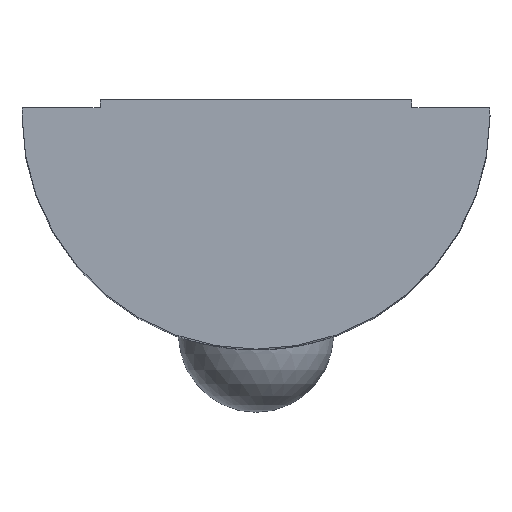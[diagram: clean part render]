
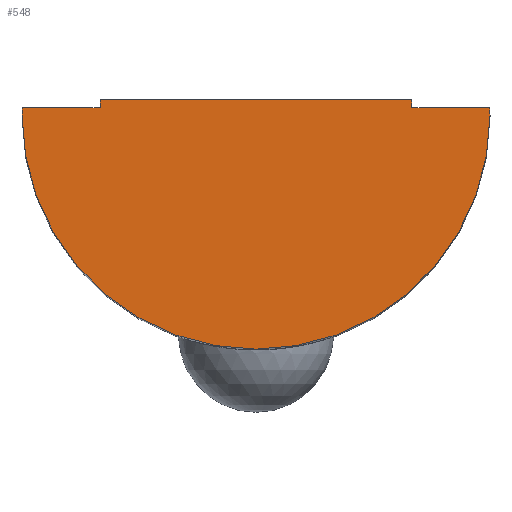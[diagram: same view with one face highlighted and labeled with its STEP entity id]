
A CAD part, top view. The second image highlights one B-rep face of the part: STEP entity #548.
In plain terms, the highlighted planar face has unit normal (0, 0, 1).
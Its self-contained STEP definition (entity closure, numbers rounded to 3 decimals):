
#6 = EDGE_CURVE ( 'NONE', #401, #391, #367, .T. ) ;
#20 = PLANE ( 'NONE',  #587 ) ;
#28 = LINE ( 'NONE', #62, #680 ) ;
#40 = ORIENTED_EDGE ( 'NONE', *, *, #145, .T. ) ;
#54 = CARTESIAN_POINT ( 'NONE',  ( -9.25, 3.25, 23. ) ) ;
#62 = CARTESIAN_POINT ( 'NONE',  ( -21.754, 3.495, 23. ) ) ;
#65 = CARTESIAN_POINT ( 'NONE',  ( -16.754, 3.25, 23. ) ) ;
#74 = LINE ( 'NONE', #309, #624 ) ;
#78 = EDGE_CURVE ( 'NONE', #226, #401, #353, .T. ) ;
#86 = EDGE_CURVE ( 'NONE', #391, #453, #639, .T. ) ;
#101 = CARTESIAN_POINT ( 'NONE',  ( -16.754, 3.745, 23. ) ) ;
#102 = ORIENTED_EDGE ( 'NONE', *, *, #158, .T. ) ;
#103 = CARTESIAN_POINT ( 'NONE',  ( -11.754, 3.495, 23. ) ) ;
#120 = AXIS2_PLACEMENT_3D ( 'NONE', #478, #159, #533 ) ;
#133 = ORIENTED_EDGE ( 'NONE', *, *, #398, .T. ) ;
#138 = AXIS2_PLACEMENT_3D ( 'NONE', #491, #178, #435 ) ;
#145 = EDGE_CURVE ( 'NONE', #252, #535, #28, .T. ) ;
#158 = EDGE_CURVE ( 'NONE', #453, #541, #74, .T. ) ;
#159 = DIRECTION ( 'NONE',  ( 0., 0., 1. ) ) ;
#177 = DIRECTION ( 'NONE',  ( 1., 0., 0. ) ) ;
#178 = DIRECTION ( 'NONE',  ( 0., 0., 1. ) ) ;
#208 = VECTOR ( 'NONE', #495, 1000. ) ;
#226 = VERTEX_POINT ( 'NONE', #298 ) ;
#252 = VERTEX_POINT ( 'NONE', #614 ) ;
#278 = VECTOR ( 'NONE', #496, 1000. ) ;
#281 = CARTESIAN_POINT ( 'NONE',  ( -16.754, 3.25, 23. ) ) ;
#298 = CARTESIAN_POINT ( 'NONE',  ( -24.258, 3.25, 23. ) ) ;
#309 = CARTESIAN_POINT ( 'NONE',  ( -11.754, 3.745, 23. ) ) ;
#318 = CARTESIAN_POINT ( 'NONE',  ( -9.254, 3.495, 23. ) ) ;
#326 = CARTESIAN_POINT ( 'NONE',  ( -24.254, 3.495, 23. ) ) ;
#328 = ORIENTED_EDGE ( 'NONE', *, *, #86, .T. ) ;
#335 = CARTESIAN_POINT ( 'NONE',  ( -11.754, 3.495, 23. ) ) ;
#353 = CIRCLE ( 'NONE', #138, 7.504 ) ;
#367 = CIRCLE ( 'NONE', #644, 7.504 ) ;
#370 = CIRCLE ( 'NONE', #120, 7.504 ) ;
#391 = VERTEX_POINT ( 'NONE', #318 ) ;
#392 = DIRECTION ( 'NONE',  ( -1., 0., 0. ) ) ;
#398 = EDGE_CURVE ( 'NONE', #535, #226, #370, .T. ) ;
#401 = VERTEX_POINT ( 'NONE', #54 ) ;
#408 = EDGE_CURVE ( 'NONE', #541, #515, #643, .T. ) ;
#434 = LINE ( 'NONE', #446, #278 ) ;
#435 = DIRECTION ( 'NONE',  ( 1., 0., 0. ) ) ;
#445 = DIRECTION ( 'NONE',  ( 1., 0., 0. ) ) ;
#446 = CARTESIAN_POINT ( 'NONE',  ( -21.754, 3.745, 23. ) ) ;
#453 = VERTEX_POINT ( 'NONE', #103 ) ;
#459 = EDGE_LOOP ( 'NONE', ( #133, #572, #657, #328, #102, #674, #629, #40 ) ) ;
#476 = DIRECTION ( 'NONE',  ( -1., 0., 0. ) ) ;
#478 = CARTESIAN_POINT ( 'NONE',  ( -16.754, 3.25, 23. ) ) ;
#491 = CARTESIAN_POINT ( 'NONE',  ( -16.754, 3.25, 23. ) ) ;
#493 = DIRECTION ( 'NONE',  ( 0., 0., 1. ) ) ;
#495 = DIRECTION ( 'NONE',  ( -1., 0., 0. ) ) ;
#496 = DIRECTION ( 'NONE',  ( 0., -1., 0. ) ) ;
#504 = VECTOR ( 'NONE', #476, 1000. ) ;
#515 = VERTEX_POINT ( 'NONE', #544 ) ;
#533 = DIRECTION ( 'NONE',  ( 1., 0., 0. ) ) ;
#535 = VERTEX_POINT ( 'NONE', #326 ) ;
#541 = VERTEX_POINT ( 'NONE', #604 ) ;
#544 = CARTESIAN_POINT ( 'NONE',  ( -21.754, 3.745, 23. ) ) ;
#548 = ADVANCED_FACE ( 'NONE', ( #598 ), #20, .T. ) ;
#572 = ORIENTED_EDGE ( 'NONE', *, *, #78, .T. ) ;
#579 = DIRECTION ( 'NONE',  ( 0., 1., 0. ) ) ;
#587 = AXIS2_PLACEMENT_3D ( 'NONE', #281, #493, #177 ) ;
#598 = FACE_OUTER_BOUND ( 'NONE', #459, .T. ) ;
#604 = CARTESIAN_POINT ( 'NONE',  ( -11.754, 3.745, 23. ) ) ;
#614 = CARTESIAN_POINT ( 'NONE',  ( -21.754, 3.495, 23. ) ) ;
#624 = VECTOR ( 'NONE', #579, 1000. ) ;
#625 = EDGE_CURVE ( 'NONE', #515, #252, #434, .T. ) ;
#629 = ORIENTED_EDGE ( 'NONE', *, *, #625, .T. ) ;
#639 = LINE ( 'NONE', #335, #208 ) ;
#643 = LINE ( 'NONE', #101, #504 ) ;
#644 = AXIS2_PLACEMENT_3D ( 'NONE', #65, #654, #445 ) ;
#654 = DIRECTION ( 'NONE',  ( 0., 0., 1. ) ) ;
#657 = ORIENTED_EDGE ( 'NONE', *, *, #6, .T. ) ;
#674 = ORIENTED_EDGE ( 'NONE', *, *, #408, .T. ) ;
#680 = VECTOR ( 'NONE', #392, 1000. ) ;
